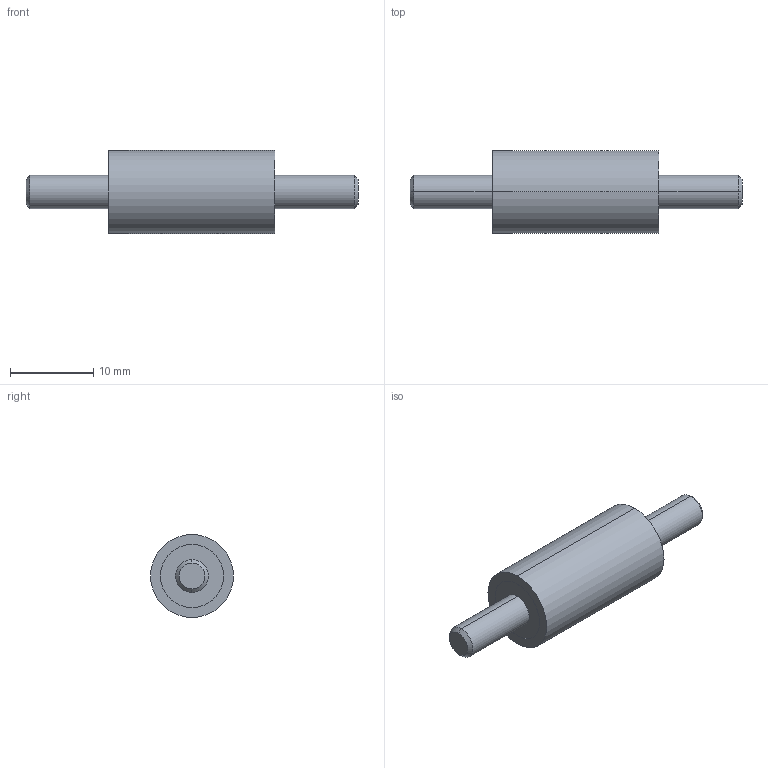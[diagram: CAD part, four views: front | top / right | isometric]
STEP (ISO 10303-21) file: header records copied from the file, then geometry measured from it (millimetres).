
FILE_DESCRIPTION (( 'STEP AP214' ), '1' );
FILE_NAME ('351-10-20-M4-SS-40.step', '2025-07-23T10:00:28', ( '' ), ( '' ), 'SwSTEP 2.0', 'SolidWorks 2022', '' );
FILE_SCHEMA (( 'AUTOMOTIVE_DESIGN' ));
Length unit declared in the file: millimetre
Products named in the file (1): 351-10-20-M4-SS-40
Bounding box: 40 x 10 x 10 mm (x, y, z)
Volume: 1819.1 mm3; surface area: 1030.3 mm2
Topology: 1 solids, 1 shells, 20 faces, 38 edges, 24 vertices
Faces by surface type: cylinder 10, plane 6, cone 4
Entity records: 636 total; most frequent: DIRECTION 104, CARTESIAN_POINT 83, ORIENTED_EDGE 76, AXIS2_PLACEMENT_3D 45, EDGE_CURVE 38, EDGE_LOOP 24, CIRCLE 24, VERTEX_POINT 24
